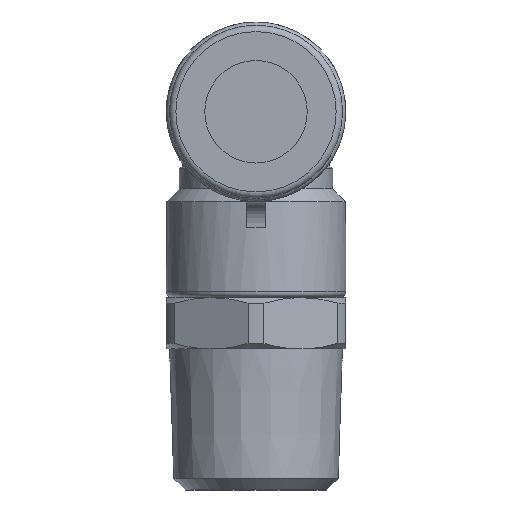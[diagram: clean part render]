
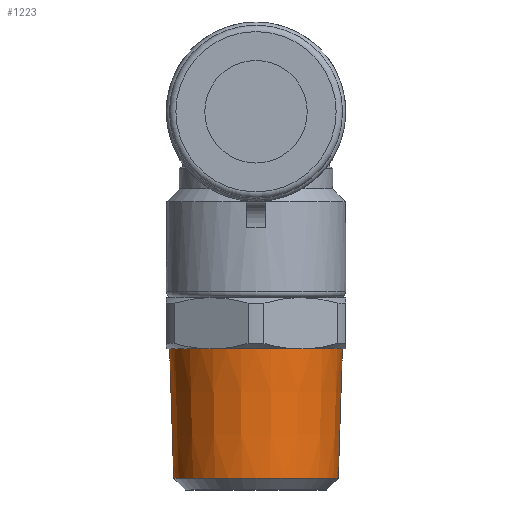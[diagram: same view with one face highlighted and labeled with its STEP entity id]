
A CAD part, left-side view. The second image highlights one B-rep face of the part: STEP entity #1223.
In plain terms, the highlighted conical face has half-angle 1.79 degrees and reference radius 6.579 mm.
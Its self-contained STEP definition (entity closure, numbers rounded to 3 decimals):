
#54=FACE_BOUND($,#350,.T.);
#254=FACE_OUTER_BOUND($,#349,.T.);
#349=EDGE_LOOP($,(#958));
#350=EDGE_LOOP($,(#959));
#450=CIRCLE($,#1349,6.419);
#451=CIRCLE($,#1351,6.735);
#589=VERTEX_POINT($,#2111);
#590=VERTEX_POINT($,#2114);
#729=EDGE_CURVE($,#589,#589,#450,.T.);
#730=EDGE_CURVE($,#590,#590,#451,.F.);
#958=ORIENTED_EDGE($,*,*,#730,.F.);
#959=ORIENTED_EDGE($,*,*,#729,.T.);
#1175=CONICAL_SURFACE($,#1350,6.579,1.79);
#1223=ADVANCED_FACE($,(#254,#54),#1175,.T.);
#1349=AXIS2_PLACEMENT_3D($,#2112,#1623,#1624);
#1350=AXIS2_PLACEMENT_3D($,#2113,#1625,#1626);
#1351=AXIS2_PLACEMENT_3D($,#2115,#1627,#1628);
#1623=DIRECTION('center_axis',(0.,0.,
1.));
#1624=DIRECTION('ref_axis',(-1.,0.,0.));
#1625=DIRECTION('center_axis',(0.,0.,
1.));
#1626=DIRECTION('ref_axis',(1.,0.,0.));
#1627=DIRECTION('center_axis',(0.,0.,
-1.));
#1628=DIRECTION('ref_axis',(1.,0.,0.));
#2111=CARTESIAN_POINT('',(0.,6.419,-28.6));
#2112=CARTESIAN_POINT('Origin',(0.,0.,
-28.6));
#2113=CARTESIAN_POINT('Origin',(0.,0.,
-23.5));
#2114=CARTESIAN_POINT('',(0.,6.735,-18.5));
#2115=CARTESIAN_POINT('Origin',(0.,0.,
-18.5));
